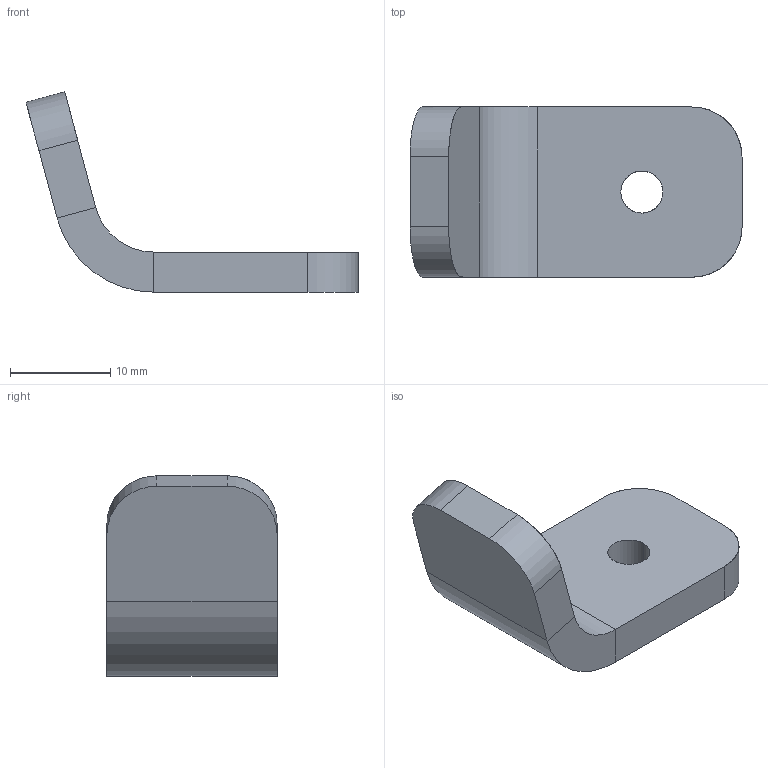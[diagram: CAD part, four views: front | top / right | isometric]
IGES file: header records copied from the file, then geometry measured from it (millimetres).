
Start section: START RECORD GO HERE.
Global section: file name: 20M_FR_11019.igs; native system: IBM CATIA IGES - CATIA Version 5 Release 19 ; preprocessor: CATIA Version 5 Release 19 ; author: Mathieu Jacquet; organization: MBPRO; date: 20200106.135625; units: millimetre
Bounding box: 33.15 x 17 x 20 mm (x, y, z)
Surface area: 1882.6 mm2 (no closed solid volume)
Topology: 0 solids, 0 shells, 20 faces, 92 edges, 92 vertices
Faces by surface type: plane 12, revolution 8
